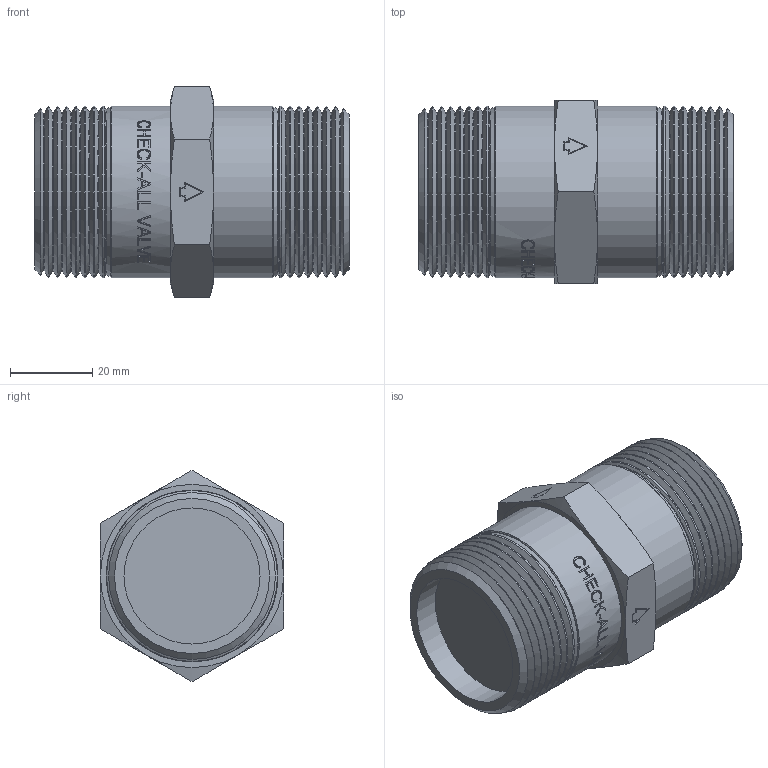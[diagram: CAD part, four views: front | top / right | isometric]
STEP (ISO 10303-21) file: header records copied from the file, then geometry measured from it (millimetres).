
FILE_DESCRIPTION( ( 'Unknown' ), '1' );
FILE_NAME( 'Y:/ENGR/3D Solid Edge Models/CN/CNI.stp', 'Unknown', ( 'Unknown' ), ( 'Unknown' ), 'PSStep 14.0', 'Unknown', ' ' );
FILE_SCHEMA( ( 'AUTOMOTIVE_DESIGN { 1 0 10303 214 1 1 1 1 }' ) );
Length unit declared in the file: inch
Products named in the file (1): 1
Bounding box: 76.33 x 44.45 x 51.33 mm (x, y, z)
Volume: 93013.6 mm3; surface area: 17668.4 mm2
Topology: 1 solids, 1 shells, 295 faces, 725 edges, 461 vertices
Faces by surface type: plane 153, cone 52, bspline 39, cylinder 33, torus 18
Full cylindrical faces by diameter (mm): 33.02 x2, 41.681 x12
Entity records: 12247 total; most frequent: CARTESIAN_POINT 4178, ORIENTED_EDGE 1280, DIRECTION 822, EDGE_CURVE 640, VERTEX_POINT 448, B_SPLINE_CURVE_WITH_KNOTS 420, EDGE_LOOP 396, AXIS2_PLACEMENT_3D 345
